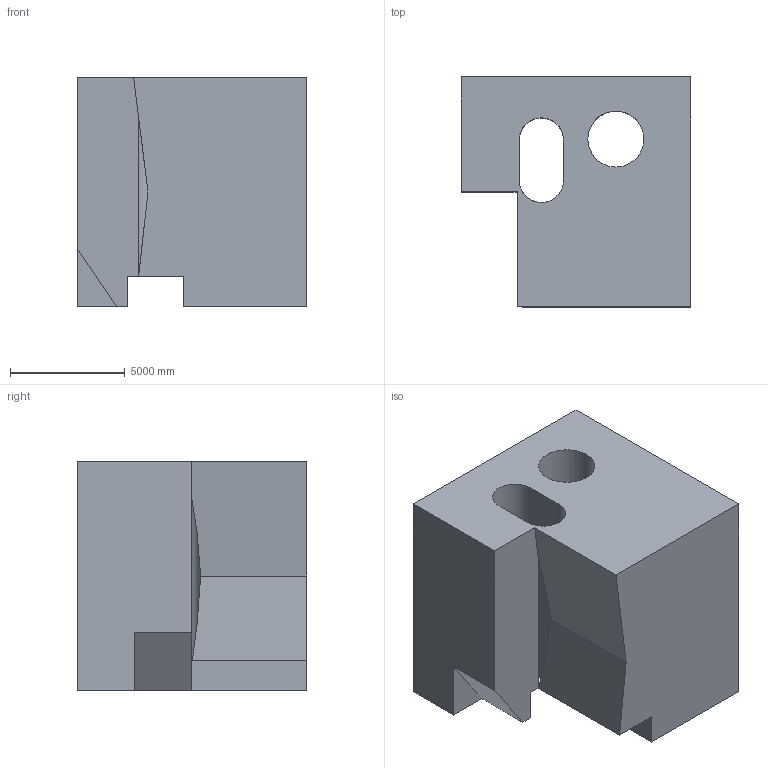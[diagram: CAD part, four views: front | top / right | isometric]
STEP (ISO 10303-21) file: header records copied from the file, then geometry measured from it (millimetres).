
FILE_DESCRIPTION (( 'STEP AP203' ), '1' );
FILE_NAME ('564.STEP', '2022-07-29T11:50:36', ( 'user' ), ( '' ), 'SwSTEP 2.0', 'SolidWorks 2021', '' );
FILE_SCHEMA (( 'CONFIG_CONTROL_DESIGN' ));
Length unit declared in the file: centimetre
Products named in the file (1): 564
Bounding box: 10000 x 10000 x 10000 mm (x, y, z)
Volume: 709290684858.4 mm3; surface area: 696763676.9 mm2
Topology: 1 solids, 1 shells, 23 faces, 69 edges, 46 vertices
Faces by surface type: plane 19, cylinder 4
Entity records: 858 total; most frequent: CARTESIAN_POINT 148, ORIENTED_EDGE 138, DIRECTION 124, EDGE_CURVE 69, VECTOR 56, LINE 56, VERTEX_POINT 46, AXIS2_PLACEMENT_3D 34
